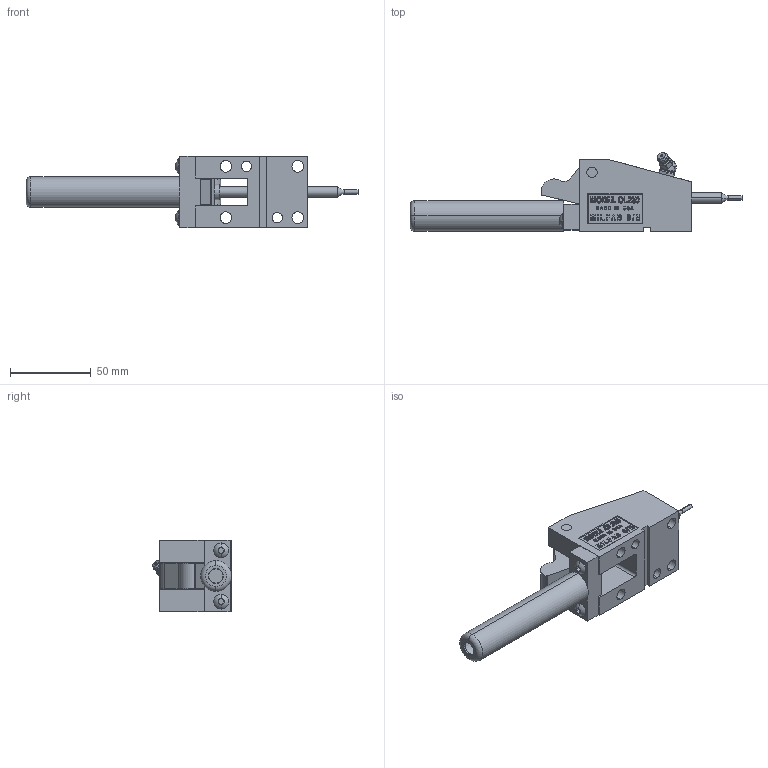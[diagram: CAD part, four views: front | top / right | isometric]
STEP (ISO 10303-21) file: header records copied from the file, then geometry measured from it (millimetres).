
FILE_DESCRIPTION (( 'STEP AP214' ), '1' );
FILE_NAME ('OL25045-C.STEP', '2014-01-05T20:35:58', ( 'user' ), ( '' ), 'SwSTEP 2.0', 'SolidWorks 2009', '' );
FILE_SCHEMA (( 'AUTOMOTIVE_DESIGN' ));
Length unit declared in the file: inch
Products named in the file (10): O-250-POINT; OL250-PUNCH; OL250-CAGE; OL250-BODY; 250-OFFSET TRIGGER; GREASE ZERK; OL25045-C; 250 PIVOT PIN; 10-SCREW; 250-O-STRAP
Assembly tree (10 placements, depth 2):
  OL25045-C
    OL250-PUNCH
    250-OFFSET TRIGGER
    10-SCREW  x2
    250-O-STRAP
    OL250-BODY
    OL250-CAGE
    250 PIVOT PIN
    GREASE ZERK
    O-250-POINT
Bounding box: 205.59 x 48.75 x 44.45 mm (x, y, z)
Volume: 109892.2 mm3; surface area: 45417 mm2
Topology: 10 solids, 10 shells, 585 faces, 1512 edges, 995 vertices
Faces by surface type: plane 340, cylinder 98, bspline 97, torus 26, cone 24
Entity records: 23373 total; most frequent: CARTESIAN_POINT 9746, ORIENTED_EDGE 2944, DIRECTION 2356, EDGE_CURVE 1472, VERTEX_POINT 971, VECTOR 956, LINE 956, AXIS2_PLACEMENT_3D 700
